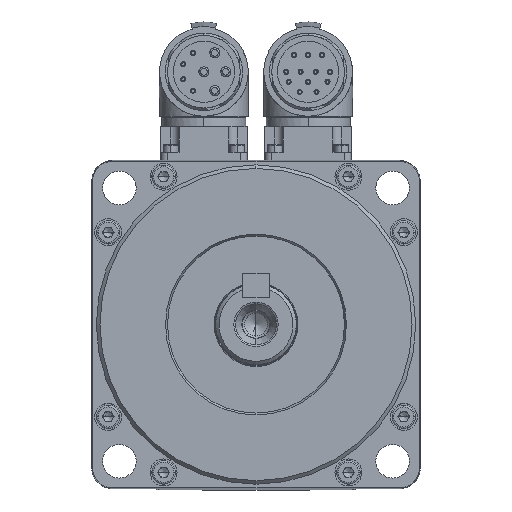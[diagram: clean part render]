
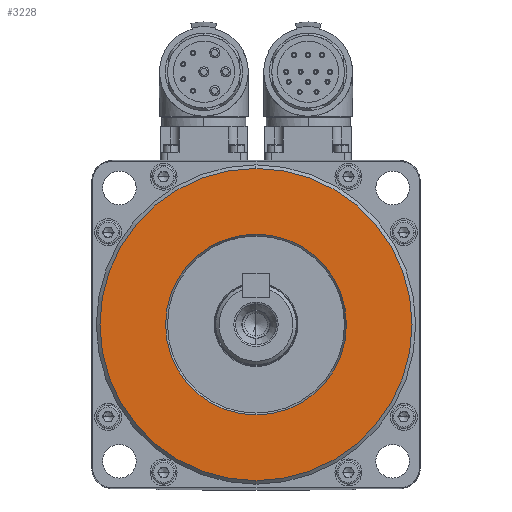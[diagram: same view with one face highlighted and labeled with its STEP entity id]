
A CAD part, top view. The second image highlights one B-rep face of the part: STEP entity #3228.
In plain terms, the highlighted planar face has unit normal (0, 0, 1).
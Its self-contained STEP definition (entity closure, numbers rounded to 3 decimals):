
#3228 = ADVANCED_FACE ( 'NONE', ( #31514, #34743 ), #5833, .F. ) ;
#4842 = DIRECTION ( 'NONE',  ( 0., 0., 1. ) ) ;
#5833 = PLANE ( 'NONE',  #21312 ) ;
#6647 = EDGE_CURVE ( 'NONE', #12819, #29972, #21073, .T. ) ;
#8828 = AXIS2_PLACEMENT_3D ( 'NONE', #59291, #9703, #34150 ) ;
#9703 = DIRECTION ( 'NONE',  ( 0., 0., -1. ) ) ;
#12819 = VERTEX_POINT ( 'NONE', #57244 ) ;
#13067 = ORIENTED_EDGE ( 'NONE', *, *, #41879, .T. ) ;
#13415 = DIRECTION ( 'NONE',  ( 0., 1., 0. ) ) ;
#15829 = ORIENTED_EDGE ( 'NONE', *, *, #40329, .T. ) ;
#19217 = EDGE_LOOP ( 'NONE', ( #15829, #13067 ) ) ;
#20855 = CARTESIAN_POINT ( 'NONE',  ( 0., 26.908, 75.864 ) ) ;
#21073 = CIRCLE ( 'NONE', #51311, 46.433 ) ;
#21312 = AXIS2_PLACEMENT_3D ( 'NONE', #36233, #60942, #41018 ) ;
#21380 = VERTEX_POINT ( 'NONE', #20855 ) ;
#21555 = CIRCLE ( 'NONE', #39661, 46.433 ) ;
#21629 = CIRCLE ( 'NONE', #25979, 26.908 ) ;
#22586 = ORIENTED_EDGE ( 'NONE', *, *, #6647, .T. ) ;
#25204 = CARTESIAN_POINT ( 'NONE',  ( 0., -46.433, 75.864 ) ) ;
#25469 = VERTEX_POINT ( 'NONE', #59678 ) ;
#25979 = AXIS2_PLACEMENT_3D ( 'NONE', #33082, #48358, #13415 ) ;
#29972 = VERTEX_POINT ( 'NONE', #25204 ) ;
#31514 = FACE_OUTER_BOUND ( 'NONE', #57286, .T. ) ;
#33082 = CARTESIAN_POINT ( 'NONE',  ( 0., 0., 75.864 ) ) ;
#33151 = CIRCLE ( 'NONE', #8828, 26.908 ) ;
#34150 = DIRECTION ( 'NONE',  ( 0., 1., 0. ) ) ;
#34373 = DIRECTION ( 'NONE',  ( 0., 1., 0. ) ) ;
#34743 = FACE_BOUND ( 'NONE', #19217, .T. ) ;
#36233 = CARTESIAN_POINT ( 'NONE',  ( 0., 0., 75.864 ) ) ;
#39661 = AXIS2_PLACEMENT_3D ( 'NONE', #64072, #49215, #58832 ) ;
#40329 = EDGE_CURVE ( 'NONE', #25469, #21380, #21629, .T. ) ;
#41018 = DIRECTION ( 'NONE',  ( 0., 1., 0. ) ) ;
#41879 = EDGE_CURVE ( 'NONE', #21380, #25469, #33151, .T. ) ;
#48358 = DIRECTION ( 'NONE',  ( 0., 0., -1. ) ) ;
#49215 = DIRECTION ( 'NONE',  ( 0., 0., 1. ) ) ;
#51311 = AXIS2_PLACEMENT_3D ( 'NONE', #60159, #4842, #34373 ) ;
#53190 = EDGE_CURVE ( 'NONE', #29972, #12819, #21555, .T. ) ;
#57244 = CARTESIAN_POINT ( 'NONE',  ( 0., 46.433, 75.864 ) ) ;
#57286 = EDGE_LOOP ( 'NONE', ( #22586, #60535 ) ) ;
#58832 = DIRECTION ( 'NONE',  ( 0., 1., 0. ) ) ;
#59291 = CARTESIAN_POINT ( 'NONE',  ( 0., 0., 75.864 ) ) ;
#59678 = CARTESIAN_POINT ( 'NONE',  ( 0., -26.908, 75.864 ) ) ;
#60159 = CARTESIAN_POINT ( 'NONE',  ( 0., 0., 75.864 ) ) ;
#60535 = ORIENTED_EDGE ( 'NONE', *, *, #53190, .T. ) ;
#60942 = DIRECTION ( 'NONE',  ( 0., 0., -1. ) ) ;
#64072 = CARTESIAN_POINT ( 'NONE',  ( 0., 0., 75.864 ) ) ;
